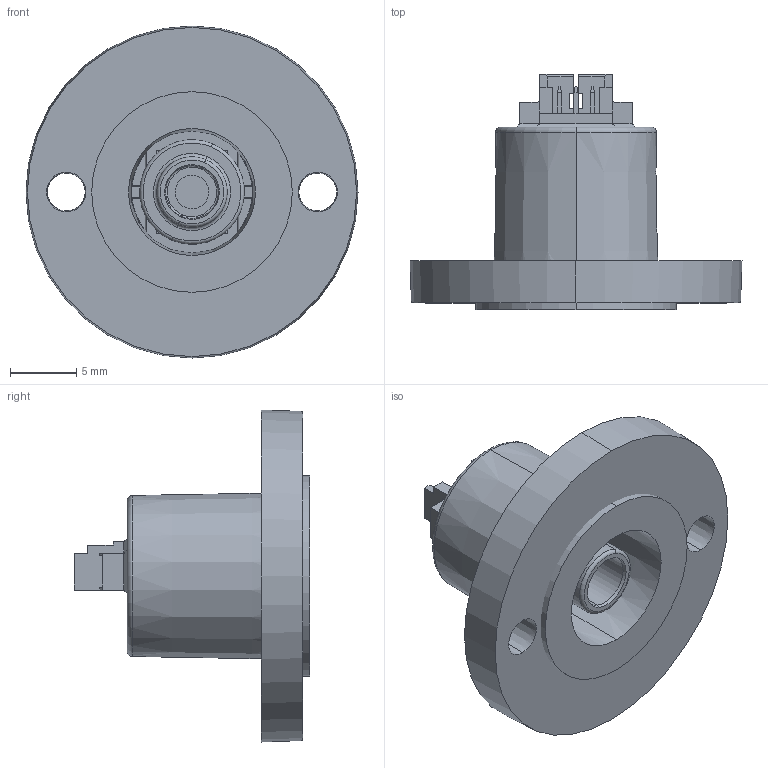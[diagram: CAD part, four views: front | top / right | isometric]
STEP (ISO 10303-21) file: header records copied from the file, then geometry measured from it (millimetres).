
FILE_DESCRIPTION (( 'STEP AP214' ), '1' );
FILE_NAME ('MAE3-X-157-220-7-X.STEP', '2017-01-25T15:47:20', ( '' ), ( '' ), 'SwSTEP 2.0', 'SolidWorks 2016', '' );
FILE_SCHEMA (( 'AUTOMOTIVE_DESIGN' ));
Length unit declared in the file: inch
Products named in the file (1): MAE3-X-157-220-7-X
Bounding box: 25.15 x 17.82 x 25.15 mm (x, y, z)
Volume: 2548.3 mm3; surface area: 3326 mm2
Topology: 6 solids, 6 shells, 579 faces, 1538 edges, 996 vertices
Faces by surface type: plane 429, cylinder 106, cone 24, torus 20
Entity records: 25470 total; most frequent: CARTESIAN_POINT 3150, ORIENTED_EDGE 3076, DIRECTION 2978, EDGE_CURVE 1538, LINE 1234, VECTOR 1234, VERTEX_POINT 996, AXIS2_PLACEMENT_3D 872
